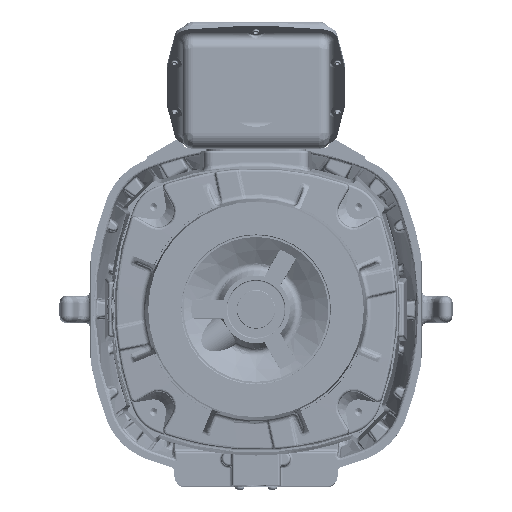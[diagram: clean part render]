
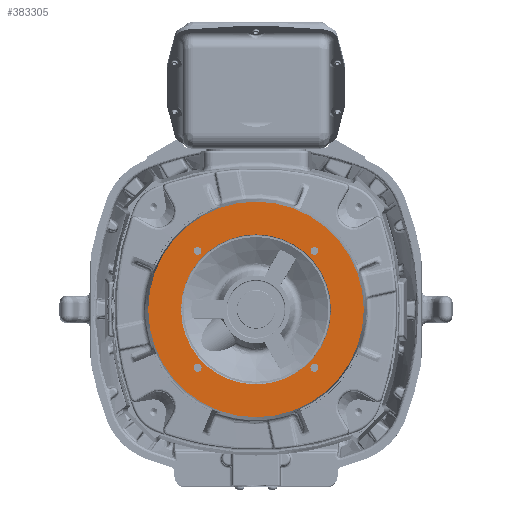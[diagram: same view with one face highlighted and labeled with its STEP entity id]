
A CAD part, front view. The second image highlights one B-rep face of the part: STEP entity #383305.
In plain terms, the highlighted planar face has unit normal (0, -1, 0) as drawn and (0, 0, -1) by its records, which use the part's own axes.
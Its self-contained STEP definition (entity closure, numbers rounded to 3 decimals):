
#365780=CARTESIAN_POINT('',(0.,0.,-4.503));
#365781=DIRECTION('',(0.,0.,-1.));
#365782=DIRECTION('',(-1.,0.,0.));
#365783=AXIS2_PLACEMENT_3D('',#365780,#365781,#365782);
#365785=CARTESIAN_POINT('',(0.,0.,-4.503));
#365786=DIRECTION('',(0.,0.,-1.));
#365787=DIRECTION('',(1.,0.,0.));
#365788=AXIS2_PLACEMENT_3D('',#365785,#365786,#365787);
#365790=CARTESIAN_POINT('',(0.,0.,-4.503));
#365791=DIRECTION('',(0.,0.,1.));
#365792=DIRECTION('',(0.,1.,0.));
#365793=AXIS2_PLACEMENT_3D('',#365790,#365791,#365792);
#365795=CARTESIAN_POINT('',(0.,0.,-4.503));
#365796=DIRECTION('',(0.,0.,1.));
#365797=DIRECTION('',(0.,-1.,0.));
#365798=AXIS2_PLACEMENT_3D('',#365795,#365796,#365797);
#365800=CARTESIAN_POINT('',(-3.226,3.226,-4.503));
#365801=DIRECTION('',(0.,0.,-1.));
#365802=DIRECTION('',(-1.,0.,0.));
#365803=AXIS2_PLACEMENT_3D('',#365800,#365801,#365802);
#365805=CARTESIAN_POINT('',(-3.226,3.226,-4.503));
#365806=DIRECTION('',(0.,0.,-1.));
#365807=DIRECTION('',(1.,0.,0.));
#365808=AXIS2_PLACEMENT_3D('',#365805,#365806,#365807);
#365810=CARTESIAN_POINT('',(-3.226,-3.226,-4.503));
#365811=DIRECTION('',(0.,0.,-1.));
#365812=DIRECTION('',(-1.,0.,0.));
#365813=AXIS2_PLACEMENT_3D('',#365810,#365811,#365812);
#365815=CARTESIAN_POINT('',(-3.226,-3.226,-4.503));
#365816=DIRECTION('',(0.,0.,-1.));
#365817=DIRECTION('',(1.,0.,0.));
#365818=AXIS2_PLACEMENT_3D('',#365815,#365816,#365817);
#365820=CARTESIAN_POINT('',(3.226,-3.226,-4.503));
#365821=DIRECTION('',(0.,0.,-1.));
#365822=DIRECTION('',(-1.,0.,0.));
#365823=AXIS2_PLACEMENT_3D('',#365820,#365821,#365822);
#365825=CARTESIAN_POINT('',(3.226,-3.226,-4.503));
#365826=DIRECTION('',(0.,0.,-1.));
#365827=DIRECTION('',(1.,0.,0.));
#365828=AXIS2_PLACEMENT_3D('',#365825,#365826,#365827);
#365830=CARTESIAN_POINT('',(3.226,3.226,-4.503));
#365831=DIRECTION('',(0.,0.,-1.));
#365832=DIRECTION('',(-1.,0.,0.));
#365833=AXIS2_PLACEMENT_3D('',#365830,#365831,#365832);
#365835=CARTESIAN_POINT('',(3.226,3.226,-4.503));
#365836=DIRECTION('',(0.,0.,-1.));
#365837=DIRECTION('',(1.,0.,0.));
#365838=AXIS2_PLACEMENT_3D('',#365835,#365836,#365837);
#376121=CARTESIAN_POINT('',(-5.951,0.,-4.503));
#376122=CARTESIAN_POINT('',(5.951,0.,-4.503));
#376123=VERTEX_POINT('',#376121);
#376124=VERTEX_POINT('',#376122);
#376373=CARTESIAN_POINT('',(0.,4.141,-4.503));
#376374=CARTESIAN_POINT('',(0.,-4.141,-4.503));
#376375=VERTEX_POINT('',#376373);
#376376=VERTEX_POINT('',#376374);
#376381=CARTESIAN_POINT('',(-3.445,3.226,-4.503));
#376382=CARTESIAN_POINT('',(-3.007,3.226,-4.503));
#376383=VERTEX_POINT('',#376381);
#376384=VERTEX_POINT('',#376382);
#376389=CARTESIAN_POINT('',(-3.445,-3.226,-4.503));
#376390=CARTESIAN_POINT('',(-3.007,-3.226,-4.503));
#376391=VERTEX_POINT('',#376389);
#376392=VERTEX_POINT('',#376390);
#376397=CARTESIAN_POINT('',(3.007,-3.226,-4.503));
#376398=CARTESIAN_POINT('',(3.445,-3.226,-4.503));
#376399=VERTEX_POINT('',#376397);
#376400=VERTEX_POINT('',#376398);
#376405=CARTESIAN_POINT('',(3.007,3.226,-4.503));
#376406=CARTESIAN_POINT('',(3.445,3.226,-4.503));
#376407=VERTEX_POINT('',#376405);
#376408=VERTEX_POINT('',#376406);
#383266=CARTESIAN_POINT('',(0.,0.,-4.503));
#383267=DIRECTION('',(0.,0.,1.));
#383268=DIRECTION('',(0.,1.,0.));
#383269=AXIS2_PLACEMENT_3D('',#383266,#383267,#383268);
#383270=PLANE('',#383269);
#383271=ORIENTED_EDGE('',*,*,#383199,.F.);
#383272=ORIENTED_EDGE('',*,*,#380333,.F.);
#383273=EDGE_LOOP('',(#383271,#383272));
#383274=FACE_OUTER_BOUND('',#383273,.F.);
#383276=ORIENTED_EDGE('',*,*,#383275,.F.);
#383278=ORIENTED_EDGE('',*,*,#383277,.F.);
#383279=EDGE_LOOP('',(#383276,#383278));
#383280=FACE_BOUND('',#383279,.F.);
#383282=ORIENTED_EDGE('',*,*,#383281,.T.);
#383284=ORIENTED_EDGE('',*,*,#383283,.T.);
#383285=EDGE_LOOP('',(#383282,#383284));
#383286=FACE_BOUND('',#383285,.F.);
#383288=ORIENTED_EDGE('',*,*,#383287,.T.);
#383290=ORIENTED_EDGE('',*,*,#383289,.T.);
#383291=EDGE_LOOP('',(#383288,#383290));
#383292=FACE_BOUND('',#383291,.F.);
#383294=ORIENTED_EDGE('',*,*,#383293,.T.);
#383296=ORIENTED_EDGE('',*,*,#383295,.T.);
#383297=EDGE_LOOP('',(#383294,#383296));
#383298=FACE_BOUND('',#383297,.F.);
#383300=ORIENTED_EDGE('',*,*,#383299,.T.);
#383302=ORIENTED_EDGE('',*,*,#383301,.T.);
#383303=EDGE_LOOP('',(#383300,#383302));
#383304=FACE_BOUND('',#383303,.F.);
#383305=ADVANCED_FACE('',(#383274,#383280,#383286,#383292,#383298,#383304),
#383270,.F.);
#365784=CIRCLE('',#365783,5.951);
#365789=CIRCLE('',#365788,5.951);
#365794=CIRCLE('',#365793,4.141);
#365799=CIRCLE('',#365798,4.141);
#365804=CIRCLE('',#365803,0.219);
#365809=CIRCLE('',#365808,0.219);
#365814=CIRCLE('',#365813,0.219);
#365819=CIRCLE('',#365818,0.219);
#365824=CIRCLE('',#365823,0.219);
#365829=CIRCLE('',#365828,0.219);
#365834=CIRCLE('',#365833,0.219);
#365839=CIRCLE('',#365838,0.219);
#380333=EDGE_CURVE('',#376124,#376123,#365789,.T.);
#383199=EDGE_CURVE('',#376123,#376124,#365784,.T.);
#383275=EDGE_CURVE('',#376375,#376376,#365794,.T.);
#383277=EDGE_CURVE('',#376376,#376375,#365799,.T.);
#383281=EDGE_CURVE('',#376383,#376384,#365804,.T.);
#383283=EDGE_CURVE('',#376384,#376383,#365809,.T.);
#383287=EDGE_CURVE('',#376391,#376392,#365814,.T.);
#383289=EDGE_CURVE('',#376392,#376391,#365819,.T.);
#383293=EDGE_CURVE('',#376399,#376400,#365824,.T.);
#383295=EDGE_CURVE('',#376400,#376399,#365829,.T.);
#383299=EDGE_CURVE('',#376407,#376408,#365834,.T.);
#383301=EDGE_CURVE('',#376408,#376407,#365839,.T.);
